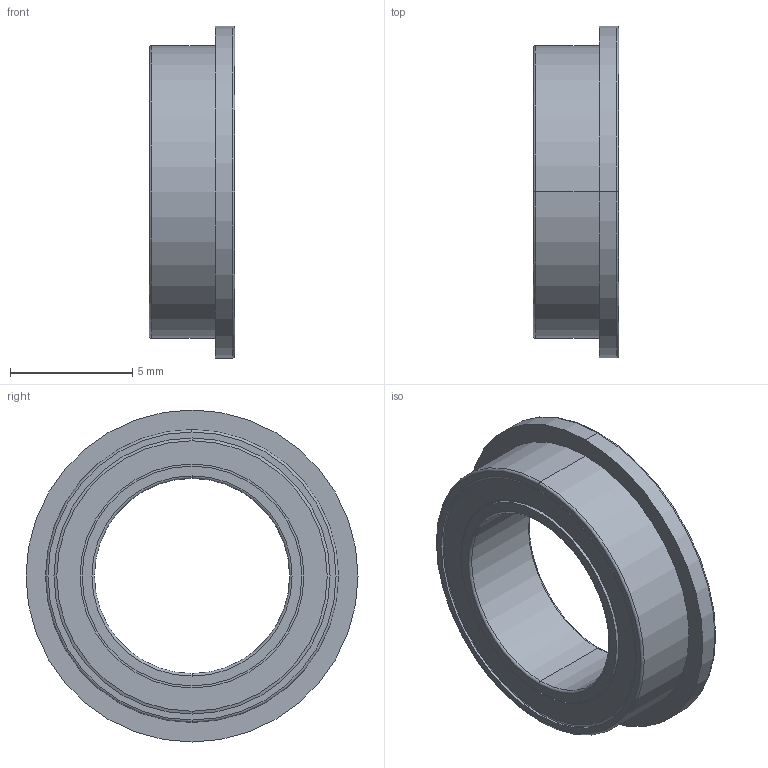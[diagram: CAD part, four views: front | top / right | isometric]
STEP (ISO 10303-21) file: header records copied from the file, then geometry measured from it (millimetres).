
FILE_DESCRIPTION((''),'2;1');
FILE_NAME('BEARING_MF128ZZ','2006-12-06T',('bono'),(''),'PRO/ENGINEER BY PARAMETRIC TECHNOLOGY CORPORATION, 2006170','PRO/ENGINEER BY PARAMETRIC TECHNOLOGY CORPORATION, 2006170','');
FILE_SCHEMA(('CONFIG_CONTROL_DESIGN'));
Length unit declared in the file: millimetre
Products named in the file (1): BEARING_MF128ZZ
Bounding box: 3.5 x 13.6 x 13.6 mm (x, y, z)
Volume: 170.7 mm3; surface area: 773.4 mm2
Topology: 22 solids, 23 shells, 139 faces, 322 edges, 152 vertices
Faces by surface type: sphere 82, cylinder 26, torus 16, plane 11, cone 4
Entity records: 4017 total; most frequent: CARTESIAN_POINT 1264, DIRECTION 644, ORIENTED_EDGE 476, AXIS2_PLACEMENT_3D 307, EDGE_CURVE 238, CIRCLE 168, VERTEX_POINT 152, EDGE_LOOP 150
